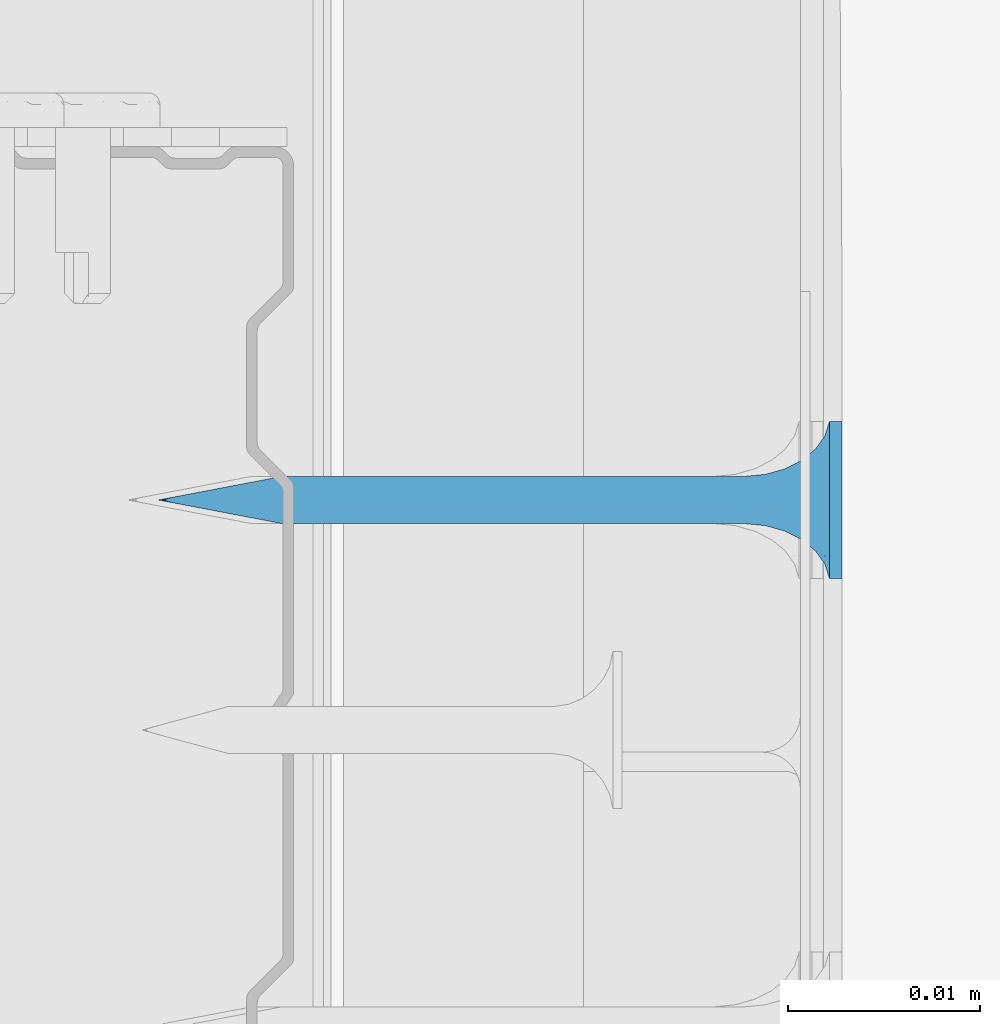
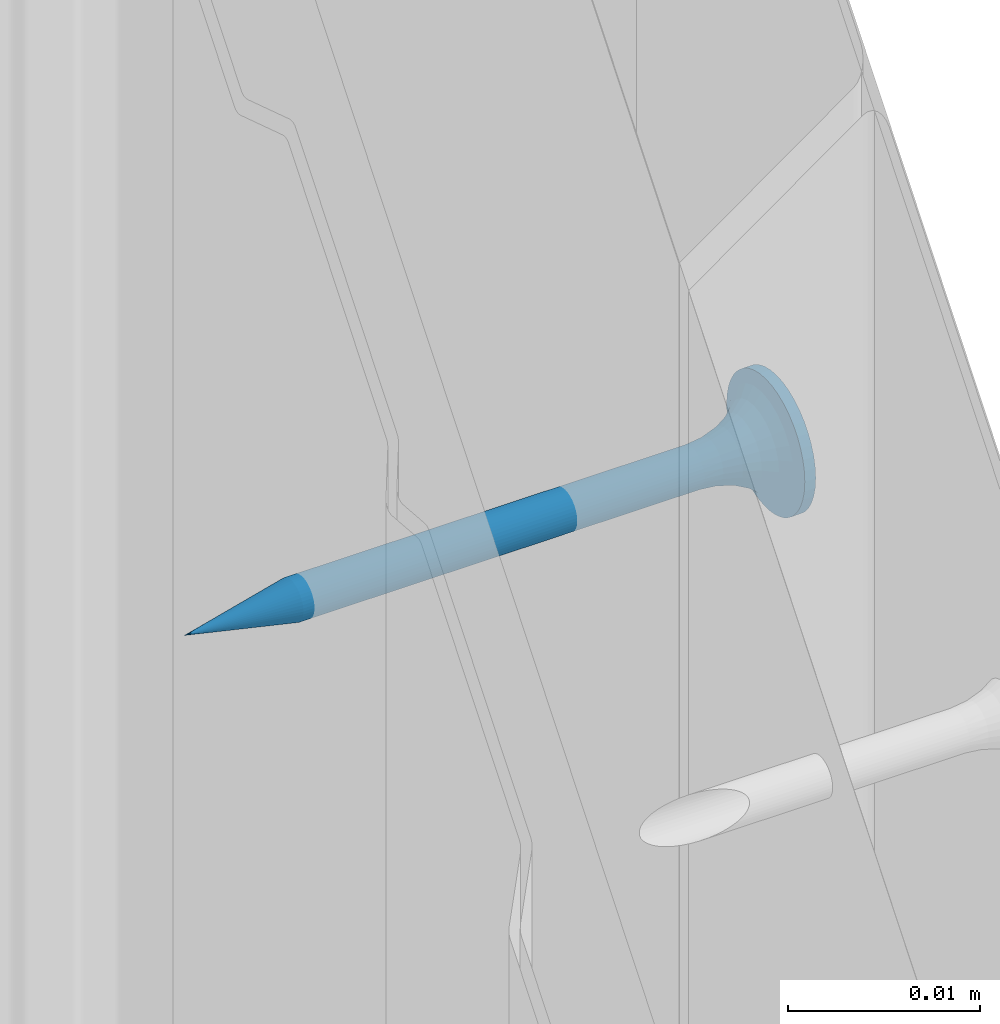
# One storey, part 12 of 61: 1 wall.
"""IFC2X3 building model written with IfcOpenShell, lengths in millimetres."""

from ifc_helpers import new_model, si_unit, frame, origin_with_axes, place, context, subcontext, project, spatial, faceted_brep, material, type_object, element, save


model = new_model("IFC2X3")

# Units and contexts
model_context = context("Model", 3, world=origin_with_axes())
body_context = subcontext(model_context, "Body", "Model", "MODEL_VIEW")
ifc_project = project(units=[si_unit("LENGTHUNIT", "METRE", prefix="MILLI"), si_unit("AREAUNIT", "SQUARE_METRE"), si_unit("VOLUMEUNIT", "CUBIC_METRE")], contexts=[model_context])

# Site, building, storey
site_placement = place(None, frame((2152.1410261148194, -2015.0250894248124, 57.61556563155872), z_axis=(0.0, 0.0, 1.0), x_axis=(-1.1102230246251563e-16, 1.0, 0.0)))
site = spatial("IfcSite", under=ifc_project, at=site_placement, Name="Default Site", CompositionType="ELEMENT")
building_placement = place(site_placement, origin_with_axes())
building = spatial("IfcBuilding", under=site, at=building_placement, Name="Default Building", CompositionType="ELEMENT")
storey_placement = place(building_placement, origin_with_axes())
storey = spatial("IfcBuildingStorey", under=building, at=storey_placement, Name="Default Building Storey", CompositionType="ELEMENT", Elevation=57.61556563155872)

# Wall
ifc_material = material(Name="Undefined6")
wall_type = type_object("IfcWallType", Name="Wkręt RIGIPS TN 35#18", PredefinedType="NOTDEFINED")
wall_placement = place(storey_placement, frame((2987.097325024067, 6748.478129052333, 103.06211053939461), z_axis=(0.0, 0.0, 1.0), x_axis=(1.0, 0.0, 0.0)))
element("IfcWall", 1, at=wall_placement, inside=storey, type_object=wall_type, material=ifc_material, Name="Wkręt RIGIPS TN 35", context=body_context, shape_type="Brep", body=[
    faceted_brep([(-141.4875329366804, -4832.598052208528, 555.1619773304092), (-141.4875329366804, -4833.259714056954, 555.1619773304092), (-141.53774659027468, -4833.259714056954, 555.8000000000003), (-141.53774659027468, -4832.598052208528, 555.8000000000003), (-141.33812900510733, -4832.598052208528, 554.5396649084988), (-141.33812900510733, -4833.259714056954, 554.5396649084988), (-141.0932132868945, -4832.598052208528, 553.948386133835), (-141.0932132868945, -4833.259714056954, 553.948386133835), (-140.75881656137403, -4832.598052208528, 553.4027002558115), (-140.75881656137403, -4833.259714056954, 553.4027002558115), (-140.34317265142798, -4833.259714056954, 552.9160436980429), (-140.45417279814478, -4832.598052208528, 553.0314906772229), (-139.8565160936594, -4833.259714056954, 552.5003997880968), (-140.10800974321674, -4832.598052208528, 552.6986613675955), (-139.72512626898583, -4832.598052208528, 552.4088260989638), (-139.31083021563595, -4833.259714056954, 552.1660030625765), (-139.31083021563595, -4832.598052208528, 552.1660030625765), (-138.7195514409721, -4833.259714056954, 551.9210873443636), (-138.87086516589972, -4832.598052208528, 551.9735585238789), (-138.41133029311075, -4832.598052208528, 551.8341602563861), (-138.09723901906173, -4833.259714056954, 551.7716834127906), (-137.9385961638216, -4832.598052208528, 551.7497405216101), (-137.45921634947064, -4833.259714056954, 551.7214697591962), (-137.45921634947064, -4832.598052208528, 551.7214697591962), (-136.82119367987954, -4832.598052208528, 551.7716834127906), (-136.82119367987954, -4833.259714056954, 551.7716834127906), (-136.19888125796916, -4832.598052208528, 551.9210873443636), (-136.19888125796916, -4833.259714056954, 551.9210873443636), (-135.60760248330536, -4832.598052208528, 552.1660030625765), (-135.60760248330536, -4833.259714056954, 552.1660030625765), (-135.0619166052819, -4832.598052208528, 552.5003997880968), (-135.0619166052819, -4833.259714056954, 552.5003997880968), (-134.5752600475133, -4832.598052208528, 552.9160436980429), (-134.5752600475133, -4833.259714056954, 552.9160436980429), (-134.15961613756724, -4832.598052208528, 553.4027002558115), (-134.15961613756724, -4833.259714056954, 553.4027002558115), (-133.82521941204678, -4832.598052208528, 553.948386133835), (-133.82521941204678, -4833.259714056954, 553.948386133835), (-133.58030369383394, -4832.598052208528, 554.5396649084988), (-133.58030369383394, -4833.259714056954, 554.5396649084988), (-133.3806861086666, -4833.259714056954, 555.8000000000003), (-133.3806861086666, -4832.598052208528, 555.8000000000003), (-133.4308997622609, -4832.598052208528, 556.4380226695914), (-133.4308997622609, -4833.259714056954, 556.4380226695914), (-133.4308997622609, -4833.259714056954, 555.1619773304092), (-133.4308997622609, -4832.598052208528, 555.1619773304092), (-133.58030369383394, -4832.598052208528, 557.0603350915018), (-133.58030369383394, -4833.259714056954, 557.0603350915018), (-133.82521941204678, -4832.598052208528, 557.6516138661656), (-133.82521941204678, -4833.259714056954, 557.6516138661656), (-134.15961613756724, -4832.598052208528, 558.1972997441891), (-134.15961613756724, -4833.259714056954, 558.1972997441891), (-134.5752600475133, -4832.598052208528, 558.6839563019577), (-134.5752600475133, -4833.259714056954, 558.6839563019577), (-135.0619166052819, -4832.598052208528, 559.0996002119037), (-135.0619166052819, -4833.259714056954, 559.0996002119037), (-135.60760248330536, -4832.598052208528, 559.4339969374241), (-135.60760248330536, -4833.259714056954, 559.4339969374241), (-136.19888125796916, -4832.598052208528, 559.678912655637), (-136.19888125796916, -4833.259714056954, 559.678912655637), (-136.82119367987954, -4832.598052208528, 559.82831658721), (-136.82119367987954, -4833.259714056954, 559.82831658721), (-137.45921634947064, -4832.598052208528, 559.8785302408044), (-137.45921634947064, -4833.259714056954, 559.8785302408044), (-138.09723901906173, -4832.598052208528, 559.82831658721), (-138.09723901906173, -4833.259714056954, 559.82831658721), (-138.7195514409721, -4832.598052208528, 559.678912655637), (-138.7195514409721, -4833.259714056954, 559.678912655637), (-139.31083021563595, -4832.598052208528, 559.4339969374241), (-139.31083021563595, -4833.259714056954, 559.4339969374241), (-139.8565160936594, -4832.598052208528, 559.0996002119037), (-139.8565160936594, -4833.259714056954, 559.0996002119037), (-140.34317265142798, -4832.598052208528, 558.6839563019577), (-140.34317265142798, -4833.259714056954, 558.6839563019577), (-140.75881656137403, -4832.598052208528, 558.1972997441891), (-140.75881656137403, -4833.259714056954, 558.1972997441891), (-141.0932132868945, -4832.598052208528, 557.6516138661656), (-141.0932132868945, -4833.259714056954, 557.6516138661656), (-141.33812900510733, -4832.598052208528, 557.0603350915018), (-141.33812900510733, -4833.259714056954, 557.0603350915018), (-141.4875329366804, -4832.598052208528, 556.4380226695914), (-141.4875329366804, -4833.259714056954, 556.4380226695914), (-137.65172779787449, -4828.2062944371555, 554.5845305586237), (-137.45921634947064, -4828.2062944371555, 554.5693795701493), (-137.80606153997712, -4829.281368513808, 554.5055561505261), (-137.45921634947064, -4829.281368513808, 554.4598930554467), (-137.8394989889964, -4828.2062944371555, 554.6296104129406), (-138.12926982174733, -4829.281368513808, 554.6394333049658), (-138.0179063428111, -4828.2062944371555, 554.7035091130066), (-138.18255689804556, -4828.2062944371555, 554.8044072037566), (-138.40681506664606, -4829.281368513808, 554.8524012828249), (-138.32939643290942, -4828.2062944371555, 554.9298199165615), (-138.4548091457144, -4828.2062944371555, 555.0766594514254), (-138.61978304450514, -4829.281368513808, 555.1299465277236), (-138.55570723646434, -4828.2062944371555, 555.2413100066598), (-138.75366019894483, -4829.281368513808, 555.4531548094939), (-138.62960593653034, -4828.2062944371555, 555.4197173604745), (-138.67468579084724, -4828.2062944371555, 555.6074885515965), (-138.79932329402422, -4829.281368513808, 555.7999999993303), (-138.68983677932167, -4828.2062944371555, 555.8000000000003), (-138.67468579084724, -4828.2062944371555, 555.9925114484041), (-138.75366019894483, -4829.281368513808, 556.1468451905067), (-138.62960593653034, -4828.2062944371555, 556.180282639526), (-138.61978304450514, -4829.281368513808, 556.470053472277), (-138.55570723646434, -4828.2062944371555, 556.3586899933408), (-138.4548091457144, -4828.2062944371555, 556.5233405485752), (-138.40681506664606, -4829.281368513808, 556.7475987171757), (-138.32939643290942, -4828.2062944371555, 556.670180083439), (-138.18255689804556, -4828.2062944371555, 556.795592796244), (-138.12926982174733, -4829.281368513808, 556.9605666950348), (-138.0179063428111, -4828.2062944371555, 556.896490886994), (-137.80606153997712, -4829.281368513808, 557.0944438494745), (-137.8394989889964, -4828.2062944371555, 556.97038958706), (-137.65172779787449, -4828.2062944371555, 557.0154694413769), (-137.45921634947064, -4829.281368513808, 557.1401069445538), (-137.45921634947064, -4828.2062944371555, 557.0306204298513), (-137.26670490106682, -4828.2062944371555, 557.0154694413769), (-137.11237115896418, -4829.281368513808, 557.0944438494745), (-137.07893370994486, -4828.2062944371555, 556.97038958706), (-136.78916287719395, -4829.281368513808, 556.9605666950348), (-136.90052635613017, -4828.2062944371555, 556.896490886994), (-136.7358758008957, -4828.2062944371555, 556.795592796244), (-136.5116176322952, -4829.281368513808, 556.7475987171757), (-136.58903626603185, -4828.2062944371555, 556.670180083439), (-136.46362355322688, -4828.2062944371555, 556.5233405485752), (-136.29864965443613, -4829.281368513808, 556.470053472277), (-136.36272546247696, -4828.2062944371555, 556.3586899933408), (-136.16477249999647, -4829.281368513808, 556.1468451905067), (-136.28882676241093, -4828.2062944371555, 556.180282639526), (-136.24374690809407, -4828.2062944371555, 555.9925114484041), (-136.11910940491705, -4829.281368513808, 555.7999999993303), (-136.2285959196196, -4828.2062944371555, 555.8000000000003), (-136.24374690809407, -4828.2062944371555, 555.6074885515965), (-136.16477249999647, -4829.281368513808, 555.4531548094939), (-136.28882676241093, -4828.2062944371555, 555.4197173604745), (-136.29864965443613, -4829.281368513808, 555.1299465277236), (-136.36272546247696, -4828.2062944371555, 555.2413100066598), (-136.46362355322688, -4828.2062944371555, 555.0766594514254), (-136.5116176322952, -4829.281368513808, 554.8524012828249), (-136.58903626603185, -4828.2062944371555, 554.9298199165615), (-136.7358758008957, -4828.2062944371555, 554.8044072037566), (-136.78916287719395, -4829.281368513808, 554.6394333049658), (-136.90052635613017, -4828.2062944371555, 554.7035091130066), (-137.11237115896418, -4829.281368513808, 554.5055561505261), (-137.07893370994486, -4828.2062944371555, 554.6296104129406), (-137.26670490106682, -4828.2062944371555, 554.5845305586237), (-137.45921634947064, -4830.288222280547, 554.1737111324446), (-137.88013087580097, -4830.288222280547, 554.2291255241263), (-138.27236078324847, -4830.288222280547, 554.3915925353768), (-138.6091762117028, -4830.288222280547, 554.6500401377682), (-138.8676238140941, -4830.288222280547, 554.9868555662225), (-139.03009082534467, -4830.288222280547, 555.37908547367), (-139.08550521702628, -4830.288222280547, 555.7999999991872), (-139.03009082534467, -4830.288222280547, 556.2209145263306), (-138.8676238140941, -4830.288222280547, 556.6131444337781), (-138.6091762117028, -4830.288222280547, 556.9499598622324), (-138.27236078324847, -4830.288222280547, 557.2084074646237), (-137.88013087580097, -4830.288222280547, 557.3708744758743), (-137.45921634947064, -4830.288222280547, 557.426288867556), (-137.0383018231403, -4830.288222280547, 557.3708744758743), (-136.64607191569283, -4830.288222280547, 557.2084074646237), (-136.3092564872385, -4830.288222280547, 556.9499598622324), (-136.05080888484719, -4830.288222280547, 556.6131444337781), (-135.8883418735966, -4830.288222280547, 556.2209145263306), (-135.832927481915, -4830.288222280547, 555.7999999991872), (-135.8883418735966, -4830.288222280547, 555.37908547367), (-136.05080888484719, -4830.288222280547, 554.9868555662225), (-136.3092564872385, -4830.288222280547, 554.6500401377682), (-136.64607191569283, -4830.288222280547, 554.3915925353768), (-137.0383018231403, -4830.288222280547, 554.2291255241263), (-137.45921634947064, -4831.168773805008, 553.7273430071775), (-137.99565943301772, -4831.168773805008, 553.7979670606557), (-138.49554484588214, -4831.168773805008, 554.0050264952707), (-138.92480608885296, -4831.168773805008, 554.3344102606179), (-139.25418985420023, -4831.168773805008, 554.7636715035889), (-139.46124928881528, -4831.168773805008, 555.2635569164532), (-139.53187334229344, -4831.168773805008, 555.799999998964), (-139.46124928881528, -4831.168773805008, 556.3364430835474), (-139.25418985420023, -4831.168773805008, 556.8363284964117), (-138.92480608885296, -4831.168773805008, 557.2655897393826), (-138.49554484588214, -4831.168773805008, 557.5949735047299), (-137.99565943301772, -4831.168773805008, 557.8020329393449), (-137.45921634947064, -4831.168773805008, 557.8726569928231), (-136.92277326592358, -4831.168773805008, 557.8020329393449), (-136.42288785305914, -4831.168773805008, 557.5949735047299), (-135.9936266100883, -4831.168773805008, 557.2655897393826), (-135.66424284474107, -4831.168773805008, 556.8363284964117), (-135.457183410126, -4831.168773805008, 556.3364430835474), (-135.38655935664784, -4831.168773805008, 555.799999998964), (-135.457183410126, -4831.168773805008, 555.2635569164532), (-135.66424284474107, -4831.168773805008, 554.7636715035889), (-135.9936266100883, -4831.168773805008, 554.3344102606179), (-136.42288785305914, -4831.168773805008, 554.0050264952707), (-136.92277326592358, -4831.168773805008, 553.7979670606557), (-137.45921634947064, -4831.872222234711, 553.1465392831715), (-138.14598252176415, -4831.872222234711, 553.2369539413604), (-138.78594670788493, -4831.872222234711, 553.5020355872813), (-139.33549641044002, -4831.872222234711, 553.9237199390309), (-139.75718076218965, -4831.872222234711, 554.4732696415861), (-140.02226240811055, -4831.872222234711, 555.1132338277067), (-140.1126770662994, -4831.872222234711, 555.7999999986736), (-140.02226240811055, -4831.872222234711, 556.4867661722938), (-139.75718076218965, -4831.872222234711, 557.1267303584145), (-139.33549641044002, -4831.872222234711, 557.6762800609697), (-138.78594670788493, -4831.872222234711, 558.0979644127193), (-138.14598252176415, -4831.872222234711, 558.3630460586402), (-137.45921634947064, -4831.872222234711, 558.453460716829), (-136.77245017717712, -4831.872222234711, 558.3630460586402), (-136.13248599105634, -4831.872222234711, 558.0979644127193), (-135.58293628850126, -4831.872222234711, 557.6762800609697), (-135.16125193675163, -4831.872222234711, 557.1267303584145), (-134.89617029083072, -4831.872222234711, 556.4867661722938), (-134.80575563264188, -4831.872222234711, 555.7999999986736), (-134.89617029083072, -4831.872222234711, 555.1132338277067), (-135.16125193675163, -4831.872222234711, 554.4732696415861), (-135.58293628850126, -4831.872222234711, 553.9237199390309), (-136.13248599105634, -4831.872222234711, 553.5020355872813), (-136.77245017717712, -4831.872222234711, 553.2369539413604), (-137.45921634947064, -4832.357990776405, 552.4648055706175), (-138.3224281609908, -4832.357990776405, 552.5784495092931), (-139.126813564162, -4832.357990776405, 552.9116369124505), (-139.81755491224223, -4832.357990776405, 553.4416614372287), (-140.3475794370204, -4832.357990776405, 554.132402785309), (-140.68076684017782, -4832.357990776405, 554.9367881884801), (-140.7944107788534, -4832.357990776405, 555.7999999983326), (-140.68076684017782, -4832.357990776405, 556.6632118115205), (-140.3475794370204, -4832.357990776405, 557.4675972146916), (-139.81755491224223, -4832.357990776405, 558.1583385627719), (-139.126813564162, -4832.357990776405, 558.6883630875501), (-138.3224281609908, -4832.357990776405, 559.0215504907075), (-137.45921634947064, -4832.357990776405, 559.1351944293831), (-136.5960045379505, -4832.357990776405, 559.0215504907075), (-135.79161913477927, -4832.357990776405, 558.6883630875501), (-135.10087778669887, -4832.357990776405, 558.1583385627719), (-134.57085326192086, -4832.357990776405, 557.4675972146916), (-134.23766585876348, -4832.357990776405, 556.6632118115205), (-134.12402192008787, -4832.357990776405, 555.7999999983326), (-134.23766585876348, -4832.357990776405, 554.9367881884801), (-134.57085326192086, -4832.357990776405, 554.132402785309), (-135.10087778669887, -4832.357990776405, 553.4416614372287), (-135.79161913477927, -4832.357990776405, 552.9116369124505), (-136.5960045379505, -4832.357990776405, 552.5784495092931), (-138.67468579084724, -4804.093757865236, 555.6074885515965), (-138.68983677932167, -4804.093757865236, 555.8000000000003), (-138.62960593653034, -4804.093757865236, 555.4197173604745), (-138.55570723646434, -4804.093757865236, 555.2413100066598), (-138.4548091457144, -4804.093757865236, 555.0766594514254), (-138.32939643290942, -4804.093757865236, 554.9298199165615), (-138.18255689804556, -4804.093757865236, 554.8044072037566), (-138.0179063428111, -4804.093757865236, 554.7035091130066), (-137.8394989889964, -4804.093757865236, 554.6296104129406), (-137.65172779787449, -4804.093757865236, 554.5845305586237), (-137.45921634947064, -4804.093757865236, 554.5693795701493), (-137.26670490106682, -4804.093757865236, 554.5845305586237), (-137.07893370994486, -4804.093757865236, 554.6296104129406), (-136.90052635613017, -4804.093757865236, 554.7035091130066), (-136.7358758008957, -4804.093757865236, 554.8044072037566), (-136.58903626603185, -4804.093757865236, 554.9298199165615), (-136.46362355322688, -4804.093757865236, 555.0766594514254), (-136.36272546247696, -4804.093757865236, 555.2413100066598), (-136.28882676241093, -4804.093757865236, 555.4197173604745), (-136.2285959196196, -4804.093757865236, 555.8000000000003), (-136.24374690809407, -4804.093757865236, 555.9925114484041), (-136.24374690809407, -4804.093757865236, 555.6074885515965), (-136.28882676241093, -4804.093757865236, 556.180282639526), (-136.36272546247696, -4804.093757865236, 556.3586899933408), (-136.46362355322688, -4804.093757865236, 556.5233405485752), (-136.58903626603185, -4804.093757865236, 556.670180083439), (-136.7358758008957, -4804.093757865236, 556.795592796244), (-136.90052635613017, -4804.093757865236, 556.896490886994), (-137.07893370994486, -4804.093757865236, 556.97038958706), (-137.26670490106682, -4804.093757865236, 557.0154694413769), (-137.45921634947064, -4804.093757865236, 557.0306204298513), (-137.65172779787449, -4804.093757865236, 557.0154694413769), (-137.8394989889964, -4804.093757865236, 556.97038958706), (-138.0179063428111, -4804.093757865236, 556.896490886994), (-138.18255689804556, -4804.093757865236, 556.795592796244), (-138.32939643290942, -4804.093757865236, 556.670180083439), (-138.4548091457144, -4804.093757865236, 556.5233405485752), (-138.55570723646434, -4804.093757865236, 556.3586899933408), (-138.62960593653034, -4804.093757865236, 556.180282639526), (-138.67468579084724, -4804.093757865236, 555.9925114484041), (-137.45921634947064, -4797.627062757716, 555.8000000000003), (-139.95921629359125, -4833.259714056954, 555.2999999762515), (-139.95921629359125, -4833.259714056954, 556.300000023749), (-137.95921637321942, -4833.259714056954, 556.300000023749), (-137.95921637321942, -4833.259714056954, 558.2999999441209), (-136.95921632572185, -4833.259714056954, 558.2999999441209), (-136.95921632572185, -4833.259714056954, 556.300000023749), (-134.95921640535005, -4833.259714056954, 556.300000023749), (-134.95921640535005, -4833.259714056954, 555.2999999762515), (-136.95921632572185, -4833.259714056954, 555.2999999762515), (-136.95921632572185, -4833.259714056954, 553.3000000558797), (-137.95921637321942, -4833.259714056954, 553.3000000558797), (-137.95921637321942, -4833.259714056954, 555.2999999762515), (-136.95921632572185, -4832.488378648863, 558.2999999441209), (-137.95921637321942, -4832.488378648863, 558.2999999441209), (-137.95921637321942, -4832.488378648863, 556.300000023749), (-139.95921629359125, -4832.488378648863, 556.300000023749), (-139.95921629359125, -4832.488378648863, 555.2999999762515), (-137.95921637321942, -4832.488378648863, 555.2999999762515), (-137.95921637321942, -4832.488378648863, 553.3000000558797), (-136.95921632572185, -4832.488378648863, 553.3000000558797), (-136.95921632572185, -4832.488378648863, 555.2999999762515), (-134.95921640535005, -4832.488378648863, 555.2999999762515), (-134.95921640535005, -4832.488378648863, 556.300000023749), (-136.95921632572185, -4832.488378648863, 556.300000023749)], [[[0, 1, 2, 3]], [[1, 0, 4, 5]], [[5, 4, 6, 7]], [[8, 9, 7, 6]], [[8, 10, 9]], [[8, 11, 10]], [[12, 11, 13]], [[12, 10, 11]], [[13, 14, 12]], [[14, 15, 12]], [[14, 16, 15]], [[17, 16, 18]], [[17, 15, 16]], [[18, 19, 17]], [[20, 19, 21]], [[20, 17, 19]], [[21, 22, 20]], [[21, 23, 22]], [[24, 25, 22, 23]], [[25, 24, 26, 27]], [[27, 26, 28, 29]], [[30, 31, 29, 28]], [[31, 30, 32, 33]], [[34, 35, 33, 32]], [[35, 34, 36, 37]], [[37, 36, 38, 39]], [[40, 41, 42, 43]], [[44, 45, 41, 40]], [[45, 44, 39, 38]], [[43, 42, 46, 47]], [[47, 46, 48, 49]], [[50, 51, 49, 48]], [[51, 50, 52, 53]], [[54, 55, 53, 52]], [[55, 54, 56, 57]], [[57, 56, 58, 59]], [[60, 61, 59, 58]], [[61, 60, 62, 63]], [[64, 65, 63, 62]], [[65, 64, 66, 67]], [[67, 66, 68, 69]], [[70, 71, 69, 68]], [[71, 70, 72, 73]], [[74, 75, 73, 72]], [[75, 74, 76, 77]], [[77, 76, 78, 79]], [[80, 81, 79, 78]], [[81, 80, 3, 2]], [[82, 83, 84]], [[83, 85, 84]], [[84, 86, 82]], [[84, 87, 88, 86]], [[89, 88, 87]], [[87, 90, 89]], [[90, 91, 89]], [[92, 91, 93]], [[91, 90, 93]], [[93, 94, 92]], [[93, 95, 96, 94]], [[97, 96, 95]], [[95, 98, 97]], [[98, 99, 97]], [[100, 99, 101]], [[99, 98, 101]], [[101, 102, 100]], [[101, 103, 104, 102]], [[105, 104, 103]], [[103, 106, 105]], [[106, 107, 105]], [[108, 107, 109]], [[107, 106, 109]], [[109, 110, 108]], [[109, 111, 112, 110]], [[113, 112, 111]], [[111, 114, 113]], [[114, 115, 113]], [[116, 115, 117]], [[115, 114, 117]], [[117, 118, 116]], [[117, 119, 120, 118]], [[121, 120, 119]], [[119, 122, 121]], [[122, 123, 121]], [[124, 123, 125]], [[123, 122, 125]], [[125, 126, 124]], [[125, 127, 128, 126]], [[129, 128, 127]], [[127, 130, 129]], [[130, 131, 129]], [[132, 131, 133]], [[131, 130, 133]], [[133, 134, 132]], [[133, 135, 136, 134]], [[137, 136, 135]], [[135, 138, 137]], [[138, 139, 137]], [[140, 139, 141]], [[139, 138, 141]], [[141, 142, 140]], [[141, 143, 144, 142]], [[145, 144, 143]], [[143, 85, 145]], [[85, 83, 145]], [[146, 147, 84, 85]], [[84, 147, 148, 87]], [[87, 148, 149, 90]], [[90, 149, 150, 93]], [[93, 150, 151, 95]], [[95, 151, 152, 98]], [[98, 152, 153, 101]], [[101, 153, 154, 103]], [[103, 154, 155, 106]], [[106, 155, 156, 109]], [[109, 156, 157, 111]], [[111, 157, 158, 114]], [[114, 158, 159, 117]], [[117, 159, 160, 119]], [[119, 160, 161, 122]], [[122, 161, 162, 125]], [[125, 162, 163, 127]], [[127, 163, 164, 130]], [[130, 164, 165, 133]], [[133, 165, 166, 135]], [[135, 166, 167, 138]], [[138, 167, 168, 141]], [[141, 168, 169, 143]], [[143, 169, 146, 85]], [[170, 171, 147, 146]], [[147, 171, 172, 148]], [[148, 172, 173, 149]], [[149, 173, 174, 150]], [[150, 174, 175, 151]], [[151, 175, 176, 152]], [[152, 176, 177, 153]], [[153, 177, 178, 154]], [[154, 178, 179, 155]], [[155, 179, 180, 156]], [[156, 180, 181, 157]], [[157, 181, 182, 158]], [[158, 182, 183, 159]], [[159, 183, 184, 160]], [[160, 184, 185, 161]], [[161, 185, 186, 162]], [[162, 186, 187, 163]], [[163, 187, 188, 164]], [[164, 188, 189, 165]], [[165, 189, 190, 166]], [[166, 190, 191, 167]], [[167, 191, 192, 168]], [[168, 192, 193, 169]], [[169, 193, 170, 146]], [[194, 195, 171, 170]], [[171, 195, 196, 172]], [[172, 196, 197, 173]], [[173, 197, 198, 174]], [[174, 198, 199, 175]], [[175, 199, 200, 176]], [[176, 200, 201, 177]], [[177, 201, 202, 178]], [[178, 202, 203, 179]], [[179, 203, 204, 180]], [[180, 204, 205, 181]], [[181, 205, 206, 182]], [[182, 206, 207, 183]], [[183, 207, 208, 184]], [[184, 208, 209, 185]], [[185, 209, 210, 186]], [[186, 210, 211, 187]], [[187, 211, 212, 188]], [[188, 212, 213, 189]], [[189, 213, 214, 190]], [[190, 214, 215, 191]], [[191, 215, 216, 192]], [[192, 216, 217, 193]], [[193, 217, 194, 170]], [[21, 19, 218]], [[19, 219, 218]], [[218, 23, 21]], [[218, 219, 195, 194]], [[18, 16, 219]], [[16, 220, 219]], [[219, 19, 18]], [[195, 219, 220, 196]], [[13, 11, 221]], [[14, 13, 220]], [[13, 221, 220]], [[220, 16, 14]], [[196, 220, 221, 197]], [[8, 6, 222]], [[222, 221, 8]], [[221, 11, 8]], [[197, 221, 222, 198]], [[4, 223, 222, 6]], [[198, 222, 223, 199]], [[0, 3, 223]], [[3, 224, 223]], [[223, 4, 0]], [[199, 223, 224, 200]], [[80, 78, 225]], [[225, 224, 80]], [[224, 3, 80]], [[200, 224, 225, 201]], [[78, 76, 226, 225]], [[201, 225, 226, 202]], [[74, 72, 226]], [[72, 227, 226]], [[226, 76, 74]], [[202, 226, 227, 203]], [[70, 68, 228]], [[228, 227, 70]], [[227, 72, 70]], [[203, 227, 228, 204]], [[68, 66, 229, 228]], [[204, 228, 229, 205]], [[64, 62, 229]], [[62, 230, 229]], [[229, 66, 64]], [[205, 229, 230, 206]], [[60, 58, 231]], [[231, 230, 60]], [[230, 62, 60]], [[206, 230, 231, 207]], [[58, 56, 232, 231]], [[207, 231, 232, 208]], [[54, 52, 232]], [[52, 233, 232]], [[232, 56, 54]], [[208, 232, 233, 209]], [[50, 48, 234]], [[234, 233, 50]], [[233, 52, 50]], [[209, 233, 234, 210]], [[48, 46, 235, 234]], [[210, 234, 235, 211]], [[42, 41, 235]], [[41, 236, 235]], [[235, 46, 42]], [[211, 235, 236, 212]], [[45, 38, 237]], [[237, 236, 45]], [[236, 41, 45]], [[212, 236, 237, 213]], [[36, 238, 237, 38]], [[213, 237, 238, 214]], [[34, 32, 238]], [[32, 239, 238]], [[238, 36, 34]], [[214, 238, 239, 215]], [[30, 28, 240]], [[240, 239, 30]], [[239, 32, 30]], [[215, 239, 240, 216]], [[26, 241, 240, 28]], [[216, 240, 241, 217]], [[217, 241, 218, 194]], [[24, 23, 241]], [[23, 218, 241]], [[241, 26, 24]], [[242, 97, 99, 243]], [[97, 242, 244, 96]], [[96, 244, 245, 94]], [[246, 92, 94, 245]], [[92, 246, 247, 91]], [[248, 89, 91, 247]], [[89, 248, 249, 88]], [[88, 249, 250, 86]], [[251, 82, 86, 250]], [[82, 251, 252, 83]], [[253, 145, 83, 252]], [[145, 253, 254, 144]], [[144, 254, 255, 142]], [[256, 140, 142, 255]], [[140, 256, 257, 139]], [[258, 137, 139, 257]], [[137, 258, 259, 136]], [[136, 259, 260, 134]], [[131, 261, 262, 129]], [[132, 263, 261, 131]], [[263, 132, 134, 260]], [[129, 262, 264, 128]], [[128, 264, 265, 126]], [[266, 124, 126, 265]], [[124, 266, 267, 123]], [[268, 121, 123, 267]], [[121, 268, 269, 120]], [[120, 269, 270, 118]], [[271, 116, 118, 270]], [[116, 271, 272, 115]], [[273, 113, 115, 272]], [[113, 273, 274, 112]], [[112, 274, 275, 110]], [[276, 108, 110, 275]], [[108, 276, 277, 107]], [[278, 105, 107, 277]], [[105, 278, 279, 104]], [[104, 279, 280, 102]], [[281, 100, 102, 280]], [[100, 281, 243, 99]], [[282, 244, 242]], [[242, 243, 282]], [[282, 245, 244]], [[282, 247, 246]], [[246, 245, 282]], [[282, 249, 248]], [[248, 247, 282]], [[282, 250, 249]], [[282, 252, 251]], [[251, 250, 282]], [[282, 254, 253]], [[253, 252, 282]], [[282, 255, 254]], [[282, 257, 256]], [[256, 255, 282]], [[282, 259, 258]], [[258, 257, 282]], [[282, 260, 259]], [[282, 261, 263]], [[263, 260, 282]], [[282, 264, 262]], [[262, 261, 282]], [[282, 265, 264]], [[282, 267, 266]], [[266, 265, 282]], [[282, 269, 268]], [[268, 267, 282]], [[282, 270, 269]], [[282, 272, 271]], [[271, 270, 282]], [[282, 274, 273]], [[273, 272, 282]], [[282, 275, 274]], [[282, 277, 276]], [[276, 275, 282]], [[282, 279, 278]], [[278, 277, 282]], [[282, 280, 279]], [[282, 243, 281]], [[281, 280, 282]], [[75, 77, 79, 81, 2, 1, 5, 7, 9, 10, 12, 15, 17, 20, 22, 25, 27, 29, 31, 33, 35, 37, 39, 44, 40, 43, 47, 49, 51, 53, 55, 57, 59, 61, 63, 65, 67, 69, 71, 73], [283, 284, 285, 286, 287, 288, 289, 290, 291, 292, 293, 294]], [[295, 296, 297, 298, 299, 300, 301, 302, 303, 304, 305, 306]], [[303, 291, 290, 304]], [[304, 290, 289, 305]], [[305, 289, 288, 306]], [[306, 288, 287, 295]], [[295, 287, 286, 296]], [[296, 286, 285, 297]], [[297, 285, 284, 298]], [[298, 284, 283, 299]], [[299, 283, 294, 300]], [[300, 294, 293, 301]], [[301, 293, 292, 302]], [[302, 292, 291, 303]]]),
])

save(model, "model.ifc")
